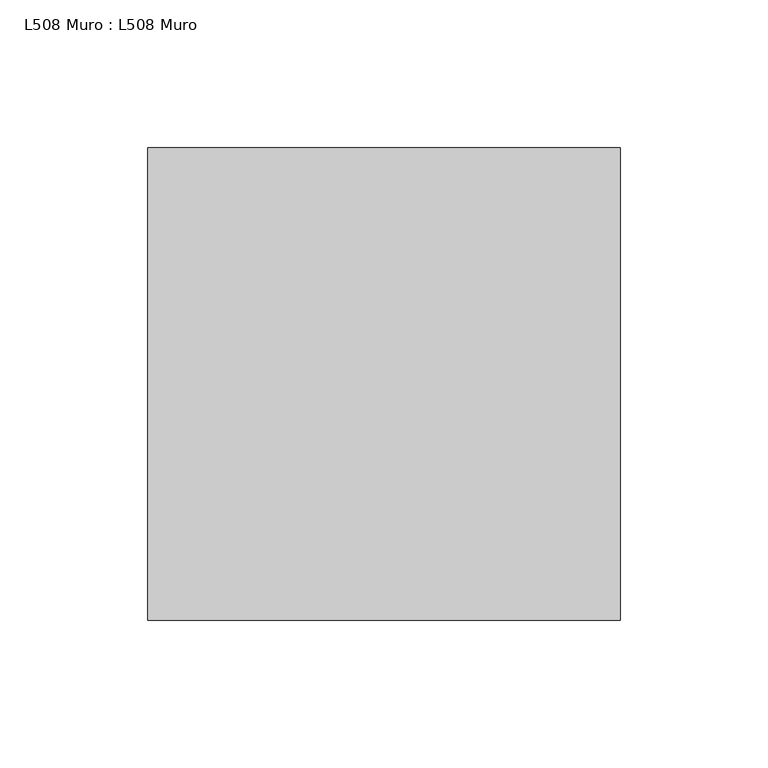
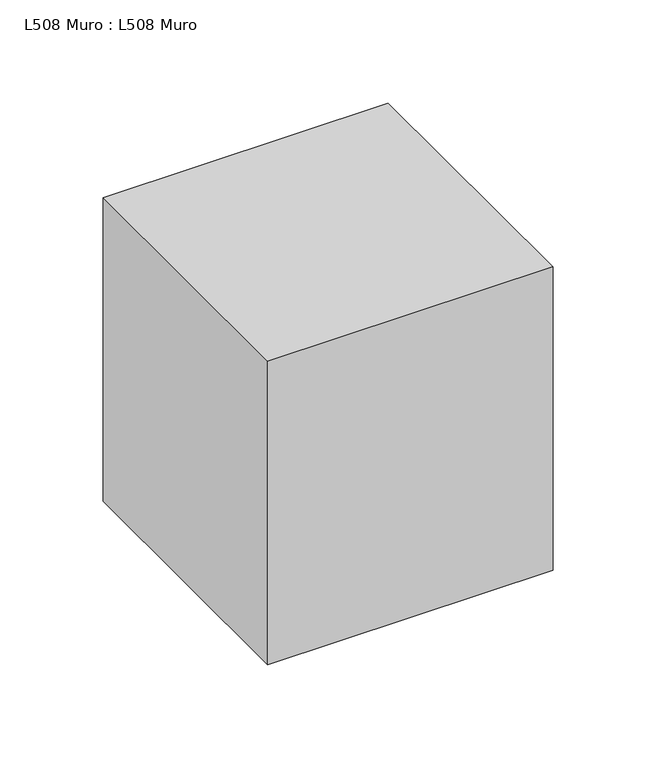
"""IFC4 building model written with IfcOpenShell, lengths in millimetres: light fixture geometry, L508 Muro : L508 Muro."""

from ifc_helpers import new_model, si_unit, frame, origin, place, context, project, spatial, polyline, outline, extrude, source, transform, mapped, element, save


def l508_muro_l508_muro_abd03695(model_context):
    return source(origin(), model_context, "Body", "SweptSolid", [
        extrude(outline(polyline([(45.0, -322.5), (45.0, -162.5), (205.0, -162.5), (205.0, -322.5), (45.0, -322.5)])), frame((0.0, 0.0, 1920.0), z_axis=(0.0, 0.0, 1.0), x_axis=(1.0, 0.0, 0.0)), (0.0, 0.0, 1.0), 180.0),
    ])


if __name__ == "__main__":
    model = new_model("IFC4")
    model_context = context("Model", 3, world=origin())
    ifc_project = project(units=[si_unit("LENGTHUNIT", "METRE", prefix="MILLI")], contexts=[model_context])
    site = spatial("IfcSite", under=ifc_project)
    building = spatial("IfcBuilding", under=site)
    placement = place(None, origin())
    l508_muro_l508_muro_shape = l508_muro_l508_muro_abd03695(model_context)
    element("IfcLightFixture", 1, ObjectType="L508 Muro : L508 Muro", at=placement, inside=building, context=model_context, shape_type="MappedRepresentation", body=[
        mapped(l508_muro_l508_muro_shape, transform((0.0, 0.0, 0.0), x_axis=(1.0, 0.0, 0.0), y_axis=(0.0, 1.0, 0.0), z_axis=(0.0, 0.0, 1.0))),
    ])
    save(model, "model.ifc")
